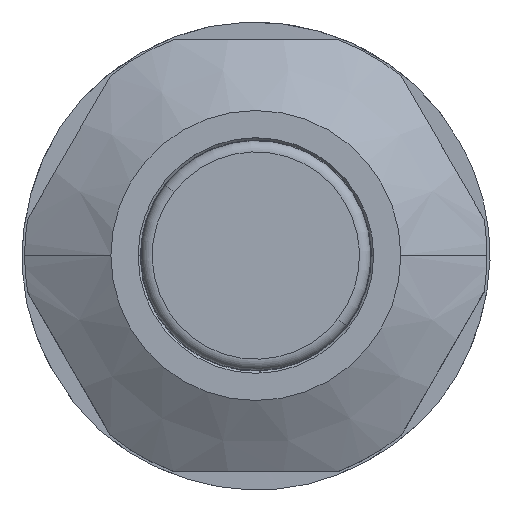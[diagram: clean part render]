
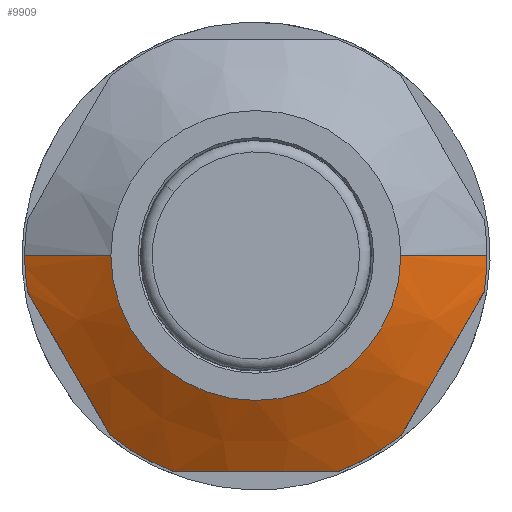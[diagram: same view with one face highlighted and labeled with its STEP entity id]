
A CAD part, top view. The second image highlights one B-rep face of the part: STEP entity #9909.
In plain terms, the highlighted conical face has half-angle 59.931 degrees and reference radius 5.1 mm.
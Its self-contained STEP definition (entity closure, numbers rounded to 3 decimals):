
#29 = DIRECTION ( 'NONE',  ( 1., 0., 0. ) ) ;
#34 = CARTESIAN_POINT ( 'NONE',  ( 1.038, -4.763, 1.526 ) ) ;
#104 = VERTEX_POINT ( 'NONE', #3633 ) ;
#183 = ORIENTED_EDGE ( 'NONE', *, *, #2156, .T. ) ;
#205 = ORIENTED_EDGE ( 'NONE', *, *, #1629, .T. ) ;
#252 = CARTESIAN_POINT ( 'NONE',  ( 1.1, 0., -5.1 ) ) ;
#265 = AXIS2_PLACEMENT_3D ( 'NONE', #5023, #1090, #4956 ) ;
#398 = CARTESIAN_POINT ( 'NONE',  ( 1.1, -4.763, -1.824 ) ) ;
#566 = EDGE_CURVE ( 'NONE', #9658, #7834, #10301, .T. ) ;
#754 = CARTESIAN_POINT ( 'NONE',  ( 1.1, -4.763, 1.824 ) ) ;
#782 = CARTESIAN_POINT ( 'NONE',  ( 0.904, -4.763, 0.302 ) ) ;
#861 = VERTEX_POINT ( 'NONE', #1884 ) ;
#989 = CIRCLE ( 'NONE', #265, 5.1 ) ;
#1023 = AXIS2_PLACEMENT_3D ( 'NONE', #8005, #9596, #3240 ) ;
#1082 = VERTEX_POINT ( 'NONE', #398 ) ;
#1090 = DIRECTION ( 'NONE',  ( -1., 0., 0. ) ) ;
#1120 = CARTESIAN_POINT ( 'NONE',  ( 1.1, -0.801, 5.037 ) ) ;
#1586 = CARTESIAN_POINT ( 'NONE',  ( 0.975, -3.439, -3.514 ) ) ;
#1629 = EDGE_CURVE ( 'NONE', #861, #4682, #9806, .T. ) ;
#1747 = AXIS2_PLACEMENT_3D ( 'NONE', #2165, #5391, #8580 ) ;
#1867 = CIRCLE ( 'NONE', #6260, 5.1 ) ;
#1884 = CARTESIAN_POINT ( 'NONE',  ( 0., 0., -3.2 ) ) ;
#2156 = EDGE_CURVE ( 'NONE', #7435, #1082, #989, .T. ) ;
#2165 = CARTESIAN_POINT ( 'NONE',  ( 1.1, 0., 0. ) ) ;
#2171 = ORIENTED_EDGE ( 'NONE', *, *, #566, .F. ) ;
#2323 = DIRECTION ( 'NONE',  ( 0., 0., -1. ) ) ;
#2340 = CARTESIAN_POINT ( 'NONE',  ( 0.905, -2.914, -3.817 ) ) ;
#2369 = CARTESIAN_POINT ( 'NONE',  ( 0.975, -1.324, -4.735 ) ) ;
#2417 = CARTESIAN_POINT ( 'NONE',  ( 1.1, -0.801, -5.037 ) ) ;
#2692 = CARTESIAN_POINT ( 'NONE',  ( 0.975, -3.438, 3.514 ) ) ;
#2725 = CARTESIAN_POINT ( 'NONE',  ( 0.905, -1.848, 4.432 ) ) ;
#2748 = ORIENTED_EDGE ( 'NONE', *, *, #4970, .F. ) ;
#3147 = CARTESIAN_POINT ( 'NONE',  ( 1.1, 0., 0. ) ) ;
#3240 = DIRECTION ( 'NONE',  ( 0., 0., 1. ) ) ;
#3281 = B_SPLINE_CURVE_WITH_KNOTS ( 'NONE', 3,
 ( #1120, #5015, #2725, #5089, #2692, #7374 ),
 .UNSPECIFIED., .F., .F.,
 ( 4, 2, 4 ),
 ( 0., 0.002, 0.004 ),
 .UNSPECIFIED. ) ;
#3623 = DIRECTION ( 'NONE',  ( 0., 0., 1. ) ) ;
#3633 = CARTESIAN_POINT ( 'NONE',  ( 1.1, -0.801, 5.037 ) ) ;
#3660 = ORIENTED_EDGE ( 'NONE', *, *, #5589, .T. ) ;
#3662 = CARTESIAN_POINT ( 'NONE',  ( 1.1, 0., 0. ) ) ;
#3687 = B_SPLINE_CURVE_WITH_KNOTS ( 'NONE', 3,
 ( #10257, #1586, #2340, #4726, #2369, #7934 ),
 .UNSPECIFIED., .F., .F.,
 ( 4, 2, 4 ),
 ( 0., 0.002, 0.004 ),
 .UNSPECIFIED. ) ;
#3810 = DIRECTION ( 'NONE',  ( 0.501, 0., 0.865 ) ) ;
#3828 = VECTOR ( 'NONE', #6553, 1000. ) ;
#3928 = ORIENTED_EDGE ( 'NONE', *, *, #4618, .T. ) ;
#3985 = EDGE_CURVE ( 'NONE', #861, #9658, #4428, .T. ) ;
#4154 = ORIENTED_EDGE ( 'NONE', *, *, #7831, .F. ) ;
#4428 = CIRCLE ( 'NONE', #9604, 3.2 ) ;
#4618 = EDGE_CURVE ( 'NONE', #104, #7834, #9916, .T. ) ;
#4676 = CARTESIAN_POINT ( 'NONE',  ( 0., 0., 3.2 ) ) ;
#4682 = VERTEX_POINT ( 'NONE', #10222 ) ;
#4685 = ORIENTED_EDGE ( 'NONE', *, *, #3985, .F. ) ;
#4726 = CARTESIAN_POINT ( 'NONE',  ( 0.904, -1.858, -4.426 ) ) ;
#4956 = DIRECTION ( 'NONE',  ( 0., 0., 1. ) ) ;
#4970 = EDGE_CURVE ( 'NONE', #9528, #1082, #6168, .T. ) ;
#5015 = CARTESIAN_POINT ( 'NONE',  ( 0.975, -1.324, 4.735 ) ) ;
#5023 = CARTESIAN_POINT ( 'NONE',  ( 1.1, 0., 0. ) ) ;
#5089 = CARTESIAN_POINT ( 'NONE',  ( 0.904, -2.904, 3.822 ) ) ;
#5391 = DIRECTION ( 'NONE',  ( -1., 0., 0. ) ) ;
#5589 = EDGE_CURVE ( 'NONE', #4682, #8772, #7905, .T. ) ;
#5954 = CARTESIAN_POINT ( 'NONE',  ( 0., 0., 0. ) ) ;
#6138 = EDGE_LOOP ( 'NONE', ( #2171, #4685, #205, #3660, #4154, #183, #2748, #9570, #7644, #3928 ) ) ;
#6168 = B_SPLINE_CURVE_WITH_KNOTS ( 'NONE', 3,
 ( #754, #34, #7919, #9574, #782, #9535, #7086, #6316 ),
 .UNSPECIFIED., .F., .F.,
 ( 4, 2, 2, 4 ),
 ( 0.014, 0.015, 0.015, 0.017 ),
 .UNSPECIFIED. ) ;
#6260 = AXIS2_PLACEMENT_3D ( 'NONE', #3662, #7593, #9252 ) ;
#6316 = CARTESIAN_POINT ( 'NONE',  ( 1.1, -4.763, -1.824 ) ) ;
#6319 = FACE_OUTER_BOUND ( 'NONE', #6138, .T. ) ;
#6532 = VECTOR ( 'NONE', #3810, 1000. ) ;
#6553 = DIRECTION ( 'NONE',  ( 0.501, 0., -0.865 ) ) ;
#6600 = CARTESIAN_POINT ( 'NONE',  ( 1.1, -4.763, 1.824 ) ) ;
#6756 = CARTESIAN_POINT ( 'NONE',  ( 1.1, -3.961, 3.212 ) ) ;
#6769 = VERTEX_POINT ( 'NONE', #6756 ) ;
#6988 = CARTESIAN_POINT ( 'NONE',  ( 1.1, 0., 5.1 ) ) ;
#7086 = CARTESIAN_POINT ( 'NONE',  ( 0.975, -4.763, -1.221 ) ) ;
#7093 = CARTESIAN_POINT ( 'NONE',  ( 1.1, 0., 5.1 ) ) ;
#7186 = AXIS2_PLACEMENT_3D ( 'NONE', #3147, #29, #2323 ) ;
#7200 = EDGE_CURVE ( 'NONE', #9528, #6769, #1867, .T. ) ;
#7374 = CARTESIAN_POINT ( 'NONE',  ( 1.1, -3.961, 3.212 ) ) ;
#7435 = VERTEX_POINT ( 'NONE', #8827 ) ;
#7593 = DIRECTION ( 'NONE',  ( -1., 0., 0. ) ) ;
#7644 = ORIENTED_EDGE ( 'NONE', *, *, #8806, .F. ) ;
#7831 = EDGE_CURVE ( 'NONE', #7435, #8772, #3687, .T. ) ;
#7834 = VERTEX_POINT ( 'NONE', #6988 ) ;
#7905 = CIRCLE ( 'NONE', #1023, 5.1 ) ;
#7919 = CARTESIAN_POINT ( 'NONE',  ( 0.989, -4.763, 1.223 ) ) ;
#7934 = CARTESIAN_POINT ( 'NONE',  ( 1.1, -0.801, -5.037 ) ) ;
#8005 = CARTESIAN_POINT ( 'NONE',  ( 1.1, 0., 0. ) ) ;
#8580 = DIRECTION ( 'NONE',  ( 0., 0., 1. ) ) ;
#8772 = VERTEX_POINT ( 'NONE', #2417 ) ;
#8806 = EDGE_CURVE ( 'NONE', #104, #6769, #3281, .T. ) ;
#8827 = CARTESIAN_POINT ( 'NONE',  ( 1.1, -3.961, -3.212 ) ) ;
#9113 = DIRECTION ( 'NONE',  ( -1., 0., 0. ) ) ;
#9252 = DIRECTION ( 'NONE',  ( 0., 0., 1. ) ) ;
#9528 = VERTEX_POINT ( 'NONE', #6600 ) ;
#9535 = CARTESIAN_POINT ( 'NONE',  ( 0.905, -4.763, -0.614 ) ) ;
#9570 = ORIENTED_EDGE ( 'NONE', *, *, #7200, .T. ) ;
#9574 = CARTESIAN_POINT ( 'NONE',  ( 0.922, -4.763, 0.609 ) ) ;
#9596 = DIRECTION ( 'NONE',  ( -1., 0., 0. ) ) ;
#9604 = AXIS2_PLACEMENT_3D ( 'NONE', #5954, #9113, #3623 ) ;
#9658 = VERTEX_POINT ( 'NONE', #4676 ) ;
#9806 = LINE ( 'NONE', #252, #3828 ) ;
#9909 = ADVANCED_FACE ( 'NONE', ( #6319 ), #10081, .T. ) ;
#9916 = CIRCLE ( 'NONE', #1747, 5.1 ) ;
#10081 = CONICAL_SURFACE ( 'NONE', #7186, 5.1, 1.046 ) ;
#10222 = CARTESIAN_POINT ( 'NONE',  ( 1.1, 0., -5.1 ) ) ;
#10257 = CARTESIAN_POINT ( 'NONE',  ( 1.1, -3.961, -3.212 ) ) ;
#10301 = LINE ( 'NONE', #7093, #6532 ) ;
